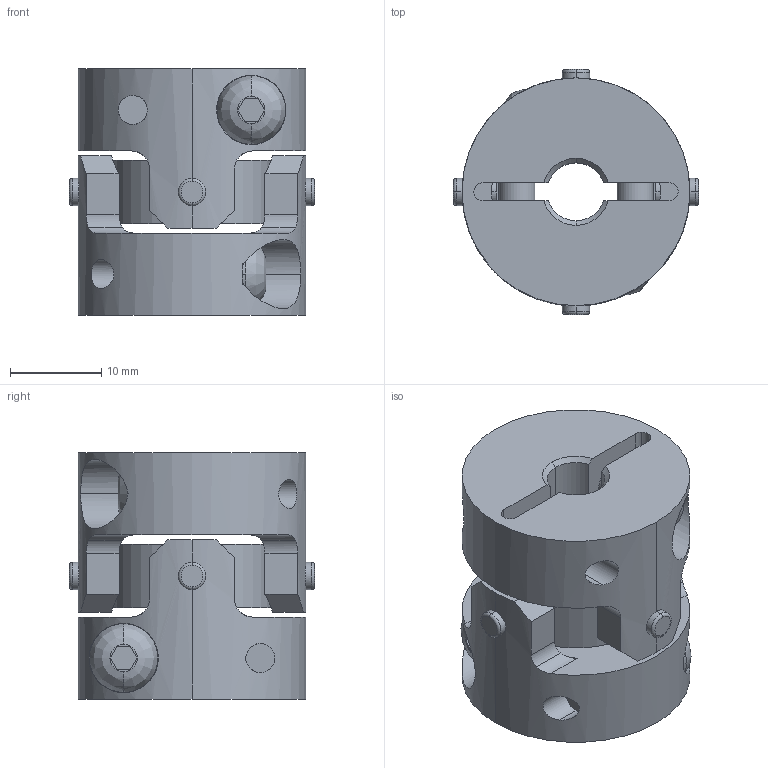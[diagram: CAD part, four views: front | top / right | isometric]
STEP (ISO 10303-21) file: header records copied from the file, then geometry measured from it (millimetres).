
FILE_DESCRIPTION((''),'2;1');
FILE_NAME('UA-25C-6.35×9.525.stp','2013-05-16T09:28:31',(''),(''),'AutoCAD STEP 2000i','AutoCAD 2000i',', , ');
FILE_SCHEMA(('CONFIG_CONTROL_DESIGN'));
Length unit declared in the file: millimetre
Products named in the file (7): UA-25C-5×9; 忣兜1; UA-2502-D09; BTN-M4; UA-2502-D05-1; UA-2502-D05; UA25-SEN
Assembly tree (8 placements, depth 3):
  UA-25C-5×9
    忣兜1
    UA-2502-D09
      BTN-M4
    UA-2502-D05-1
      BTN-M4
    UA-2502-D05
      BTN-M4
    UA25-SEN
Bounding box: 26.89 x 26.89 x 27 mm (x, y, z)
Volume: 9097.2 mm3; surface area: 6386.3 mm2
Topology: 1 solids, 1 shells, 208 faces, 562 edges, 368 vertices
Faces by surface type: cylinder 96, plane 80, cone 16, bspline 8, torus 8
Entity records: 8385 total; most frequent: CARTESIAN_POINT 2983, ORIENTED_EDGE 1124, DIRECTION 1084, EDGE_CURVE 562, AXIS2_PLACEMENT_3D 417, VERTEX_POINT 368, VECTOR 250, LINE 250
